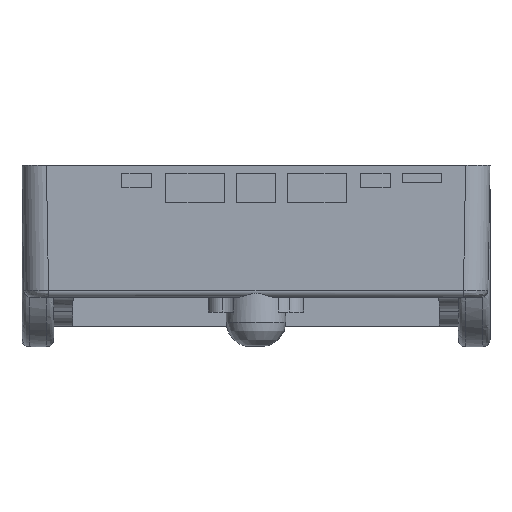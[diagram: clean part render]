
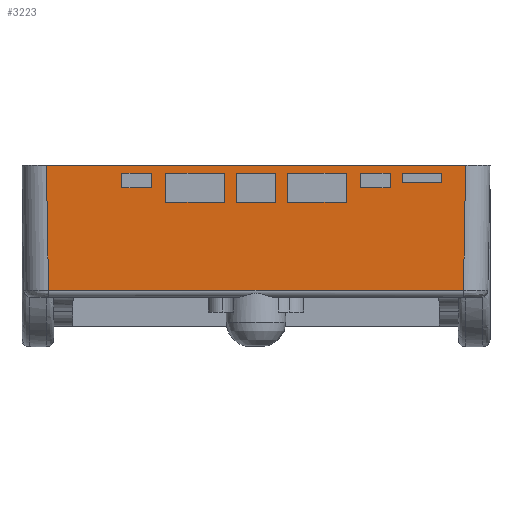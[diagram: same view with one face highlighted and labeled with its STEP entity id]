
A CAD part, front view. The second image highlights one B-rep face of the part: STEP entity #3223.
In plain terms, the highlighted planar face has unit normal (0, -1, -0.018).
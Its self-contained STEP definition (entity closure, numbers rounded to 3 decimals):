
#70=FACE_BOUND('',#674,.T.);
#71=FACE_BOUND('',#675,.T.);
#72=FACE_BOUND('',#676,.T.);
#73=FACE_BOUND('',#677,.T.);
#74=FACE_BOUND('',#678,.T.);
#75=FACE_BOUND('',#679,.T.);
#261=PLANE('',#3505);
#434=FACE_OUTER_BOUND('',#673,.T.);
#673=EDGE_LOOP('',(#2820,#2821,#2822,#2823));
#674=EDGE_LOOP('',(#2824,#2825,#2826,#2827));
#675=EDGE_LOOP('',(#2828,#2829,#2830,#2831));
#676=EDGE_LOOP('',(#2832,#2833,#2834,#2835));
#677=EDGE_LOOP('',(#2836,#2837,#2838,#2839));
#678=EDGE_LOOP('',(#2840,#2841,#2842,#2843));
#679=EDGE_LOOP('',(#2844,#2845,#2846,#2847));
#768=LINE('',#4618,#1046);
#772=LINE('',#4626,#1050);
#775=LINE('',#4632,#1053);
#778=LINE('',#4637,#1056);
#780=LINE('',#4643,#1058);
#784=LINE('',#4651,#1062);
#787=LINE('',#4657,#1065);
#790=LINE('',#4662,#1068);
#792=LINE('',#4668,#1070);
#796=LINE('',#4676,#1074);
#799=LINE('',#4682,#1077);
#802=LINE('',#4687,#1080);
#804=LINE('',#4693,#1082);
#808=LINE('',#4701,#1086);
#811=LINE('',#4707,#1089);
#814=LINE('',#4712,#1092);
#816=LINE('',#4718,#1094);
#820=LINE('',#4726,#1098);
#823=LINE('',#4732,#1101);
#826=LINE('',#4737,#1104);
#828=LINE('',#4743,#1106);
#832=LINE('',#4751,#1110);
#835=LINE('',#4757,#1113);
#838=LINE('',#4762,#1116);
#884=LINE('',#6002,#1162);
#983=LINE('',#6370,#1261);
#984=LINE('',#6406,#1262);
#985=LINE('',#6408,#1263);
#1046=VECTOR('',#3693,10.);
#1050=VECTOR('',#3699,10.);
#1053=VECTOR('',#3704,10.);
#1056=VECTOR('',#3709,10.);
#1058=VECTOR('',#3715,10.);
#1062=VECTOR('',#3721,10.);
#1065=VECTOR('',#3726,10.);
#1068=VECTOR('',#3731,10.);
#1070=VECTOR('',#3737,10.);
#1074=VECTOR('',#3743,10.);
#1077=VECTOR('',#3748,10.);
#1080=VECTOR('',#3753,10.);
#1082=VECTOR('',#3759,10.);
#1086=VECTOR('',#3765,10.);
#1089=VECTOR('',#3770,10.);
#1092=VECTOR('',#3775,10.);
#1094=VECTOR('',#3781,10.);
#1098=VECTOR('',#3787,10.);
#1101=VECTOR('',#3792,10.);
#1104=VECTOR('',#3797,10.);
#1106=VECTOR('',#3803,10.);
#1110=VECTOR('',#3809,10.);
#1113=VECTOR('',#3814,10.);
#1116=VECTOR('',#3819,10.);
#1162=VECTOR('',#3955,10.);
#1261=VECTOR('',#4244,10.);
#1262=VECTOR('',#4255,10.);
#1263=VECTOR('',#4258,10.);
#1429=VERTEX_POINT('',#4616);
#1430=VERTEX_POINT('',#4617);
#1433=VERTEX_POINT('',#4625);
#1435=VERTEX_POINT('',#4631);
#1437=VERTEX_POINT('',#4641);
#1438=VERTEX_POINT('',#4642);
#1441=VERTEX_POINT('',#4650);
#1443=VERTEX_POINT('',#4656);
#1445=VERTEX_POINT('',#4666);
#1446=VERTEX_POINT('',#4667);
#1449=VERTEX_POINT('',#4675);
#1451=VERTEX_POINT('',#4681);
#1453=VERTEX_POINT('',#4691);
#1454=VERTEX_POINT('',#4692);
#1457=VERTEX_POINT('',#4700);
#1459=VERTEX_POINT('',#4706);
#1461=VERTEX_POINT('',#4716);
#1462=VERTEX_POINT('',#4717);
#1465=VERTEX_POINT('',#4725);
#1467=VERTEX_POINT('',#4731);
#1469=VERTEX_POINT('',#4741);
#1470=VERTEX_POINT('',#4742);
#1473=VERTEX_POINT('',#4750);
#1475=VERTEX_POINT('',#4756);
#1557=VERTEX_POINT('',#5999);
#1558=VERTEX_POINT('',#6001);
#1645=VERTEX_POINT('',#6365);
#1646=VERTEX_POINT('',#6369);
#1734=EDGE_CURVE('',#1429,#1430,#768,.T.);
#1738=EDGE_CURVE('',#1430,#1433,#772,.T.);
#1741=EDGE_CURVE('',#1433,#1435,#775,.T.);
#1744=EDGE_CURVE('',#1435,#1429,#778,.T.);
#1746=EDGE_CURVE('',#1437,#1438,#780,.T.);
#1750=EDGE_CURVE('',#1438,#1441,#784,.T.);
#1753=EDGE_CURVE('',#1441,#1443,#787,.T.);
#1756=EDGE_CURVE('',#1443,#1437,#790,.T.);
#1758=EDGE_CURVE('',#1445,#1446,#792,.T.);
#1762=EDGE_CURVE('',#1446,#1449,#796,.T.);
#1765=EDGE_CURVE('',#1449,#1451,#799,.T.);
#1768=EDGE_CURVE('',#1451,#1445,#802,.T.);
#1770=EDGE_CURVE('',#1453,#1454,#804,.T.);
#1774=EDGE_CURVE('',#1454,#1457,#808,.T.);
#1777=EDGE_CURVE('',#1457,#1459,#811,.T.);
#1780=EDGE_CURVE('',#1459,#1453,#814,.T.);
#1782=EDGE_CURVE('',#1461,#1462,#816,.T.);
#1786=EDGE_CURVE('',#1462,#1465,#820,.T.);
#1789=EDGE_CURVE('',#1465,#1467,#823,.T.);
#1792=EDGE_CURVE('',#1467,#1461,#826,.T.);
#1794=EDGE_CURVE('',#1469,#1470,#828,.T.);
#1798=EDGE_CURVE('',#1470,#1473,#832,.T.);
#1801=EDGE_CURVE('',#1473,#1475,#835,.T.);
#1804=EDGE_CURVE('',#1475,#1469,#838,.T.);
#1923=EDGE_CURVE('',#1557,#1558,#884,.T.);
#2058=EDGE_CURVE('',#1645,#1646,#983,.T.);
#2062=EDGE_CURVE('',#1646,#1557,#984,.T.);
#2063=EDGE_CURVE('',#1558,#1645,#985,.T.);
#2820=ORIENTED_EDGE('',*,*,#2058,.F.);
#2821=ORIENTED_EDGE('',*,*,#2063,.F.);
#2822=ORIENTED_EDGE('',*,*,#1923,.F.);
#2823=ORIENTED_EDGE('',*,*,#2062,.F.);
#2824=ORIENTED_EDGE('',*,*,#1741,.T.);
#2825=ORIENTED_EDGE('',*,*,#1744,.T.);
#2826=ORIENTED_EDGE('',*,*,#1734,.T.);
#2827=ORIENTED_EDGE('',*,*,#1738,.T.);
#2828=ORIENTED_EDGE('',*,*,#1753,.T.);
#2829=ORIENTED_EDGE('',*,*,#1756,.T.);
#2830=ORIENTED_EDGE('',*,*,#1746,.T.);
#2831=ORIENTED_EDGE('',*,*,#1750,.T.);
#2832=ORIENTED_EDGE('',*,*,#1765,.T.);
#2833=ORIENTED_EDGE('',*,*,#1768,.T.);
#2834=ORIENTED_EDGE('',*,*,#1758,.T.);
#2835=ORIENTED_EDGE('',*,*,#1762,.T.);
#2836=ORIENTED_EDGE('',*,*,#1777,.T.);
#2837=ORIENTED_EDGE('',*,*,#1780,.T.);
#2838=ORIENTED_EDGE('',*,*,#1770,.T.);
#2839=ORIENTED_EDGE('',*,*,#1774,.T.);
#2840=ORIENTED_EDGE('',*,*,#1789,.T.);
#2841=ORIENTED_EDGE('',*,*,#1792,.T.);
#2842=ORIENTED_EDGE('',*,*,#1782,.T.);
#2843=ORIENTED_EDGE('',*,*,#1786,.T.);
#2844=ORIENTED_EDGE('',*,*,#1801,.T.);
#2845=ORIENTED_EDGE('',*,*,#1804,.T.);
#2846=ORIENTED_EDGE('',*,*,#1794,.T.);
#2847=ORIENTED_EDGE('',*,*,#1798,.T.);
#3223=ADVANCED_FACE('',(#434,#70,#71,#72,#73,#74,#75),#261,.F.);
#3505=AXIS2_PLACEMENT_3D('',#6407,#4256,#4257);
#3693=DIRECTION('',(1.,0.,0.));
#3699=DIRECTION('',(0.,0.017,-1.));
#3704=DIRECTION('',(-1.,0.,0.));
#3709=DIRECTION('',(0.,-0.017,1.));
#3715=DIRECTION('',(0.,0.017,-1.));
#3721=DIRECTION('',(-1.,0.,0.));
#3726=DIRECTION('',(0.,-0.017,1.));
#3731=DIRECTION('',(1.,0.,0.));
#3737=DIRECTION('',(0.,0.017,-1.));
#3743=DIRECTION('',(-1.,0.,0.));
#3748=DIRECTION('',(0.,-0.017,1.));
#3753=DIRECTION('',(1.,0.,0.));
#3759=DIRECTION('',(-1.,0.,0.));
#3765=DIRECTION('',(0.,-0.017,1.));
#3770=DIRECTION('',(1.,0.,0.));
#3775=DIRECTION('',(0.,0.017,-1.));
#3781=DIRECTION('',(0.,-0.017,1.));
#3787=DIRECTION('',(1.,0.,0.));
#3792=DIRECTION('',(0.,0.017,-1.));
#3797=DIRECTION('',(-1.,0.,0.));
#3803=DIRECTION('',(0.,-0.017,1.));
#3809=DIRECTION('',(1.,0.,0.));
#3814=DIRECTION('',(0.,0.017,-1.));
#3819=DIRECTION('',(-1.,0.,0.));
#3955=DIRECTION('',(1.,0.,0.));
#4244=DIRECTION('',(-1.,0.,0.));
#4255=DIRECTION('',(-0.017,-0.017,1.));
#4256=DIRECTION('center_axis',(0.,1.,0.017));
#4257=DIRECTION('ref_axis',(0.,-0.017,1.));
#4258=DIRECTION('',(-0.017,0.017,-1.));
#4616=CARTESIAN_POINT('',(30.,-47.972,25.5));
#4617=CARTESIAN_POINT('',(38.,-47.972,25.5));
#4618=CARTESIAN_POINT('',(-9.,-47.972,25.5));
#4625=CARTESIAN_POINT('',(38.,-47.937,23.5));
#4626=CARTESIAN_POINT('',(38.,-47.75,12.75));
#4631=CARTESIAN_POINT('',(30.,-47.937,23.5));
#4632=CARTESIAN_POINT('',(-5.,-47.937,23.5));
#4637=CARTESIAN_POINT('',(30.,-47.732,11.751));
#4641=CARTESIAN_POINT('',(-6.5,-47.972,25.5));
#4642=CARTESIAN_POINT('',(-6.5,-47.867,19.5));
#4643=CARTESIAN_POINT('',(-6.5,-47.697,9.751));
#4650=CARTESIAN_POINT('',(-18.5,-47.867,19.5));
#4651=CARTESIAN_POINT('',(-33.25,-47.867,19.5));
#4656=CARTESIAN_POINT('',(-18.5,-47.972,25.5));
#4657=CARTESIAN_POINT('',(-18.5,-47.75,12.75));
#4662=CARTESIAN_POINT('',(-27.25,-47.972,25.5));
#4666=CARTESIAN_POINT('',(-21.5,-47.972,25.5));
#4667=CARTESIAN_POINT('',(-21.5,-47.92,22.5));
#4668=CARTESIAN_POINT('',(-21.5,-47.723,11.251));
#4675=CARTESIAN_POINT('',(-27.5,-47.92,22.5));
#4676=CARTESIAN_POINT('',(-37.75,-47.92,22.5));
#4681=CARTESIAN_POINT('',(-27.5,-47.972,25.5));
#4682=CARTESIAN_POINT('',(-27.5,-47.75,12.75));
#4687=CARTESIAN_POINT('',(-34.75,-47.972,25.5));
#4691=CARTESIAN_POINT('',(4.,-47.867,19.5));
#4692=CARTESIAN_POINT('',(-4.,-47.867,19.5));
#4693=CARTESIAN_POINT('',(-22.,-47.867,19.5));
#4700=CARTESIAN_POINT('',(-4.,-47.972,25.5));
#4701=CARTESIAN_POINT('',(-4.,-47.697,9.751));
#4706=CARTESIAN_POINT('',(4.,-47.972,25.5));
#4707=CARTESIAN_POINT('',(-26.,-47.972,25.5));
#4712=CARTESIAN_POINT('',(4.,-47.75,12.75));
#4716=CARTESIAN_POINT('',(6.5,-47.867,19.5));
#4717=CARTESIAN_POINT('',(6.5,-47.972,25.5));
#4718=CARTESIAN_POINT('',(6.5,-47.697,9.751));
#4725=CARTESIAN_POINT('',(18.5,-47.972,25.5));
#4726=CARTESIAN_POINT('',(-20.75,-47.972,25.5));
#4731=CARTESIAN_POINT('',(18.5,-47.867,19.5));
#4732=CARTESIAN_POINT('',(18.5,-47.75,12.75));
#4737=CARTESIAN_POINT('',(-14.75,-47.867,19.5));
#4741=CARTESIAN_POINT('',(21.5,-47.92,22.5));
#4742=CARTESIAN_POINT('',(21.5,-47.972,25.5));
#4743=CARTESIAN_POINT('',(21.5,-47.723,11.251));
#4750=CARTESIAN_POINT('',(27.5,-47.972,25.5));
#4751=CARTESIAN_POINT('',(-13.25,-47.972,25.5));
#4756=CARTESIAN_POINT('',(27.5,-47.92,22.5));
#4757=CARTESIAN_POINT('',(27.5,-47.75,12.75));
#4762=CARTESIAN_POINT('',(-10.25,-47.92,22.5));
#5999=CARTESIAN_POINT('',(-43.001,-48.,27.1));
#6001=CARTESIAN_POINT('',(43.001,-48.,27.1));
#6002=CARTESIAN_POINT('',(-48.,-48.,27.1));
#6365=CARTESIAN_POINT('',(42.553,-47.553,1.474));
#6369=CARTESIAN_POINT('',(-42.553,-47.553,1.474));
#6370=CARTESIAN_POINT('',(-24.,-47.553,1.474));
#6406=CARTESIAN_POINT('',(-42.515,-47.514,-0.742));
#6407=CARTESIAN_POINT('Origin',(-48.,-47.527,0.));
#6408=CARTESIAN_POINT('',(42.515,-47.514,-0.742));
